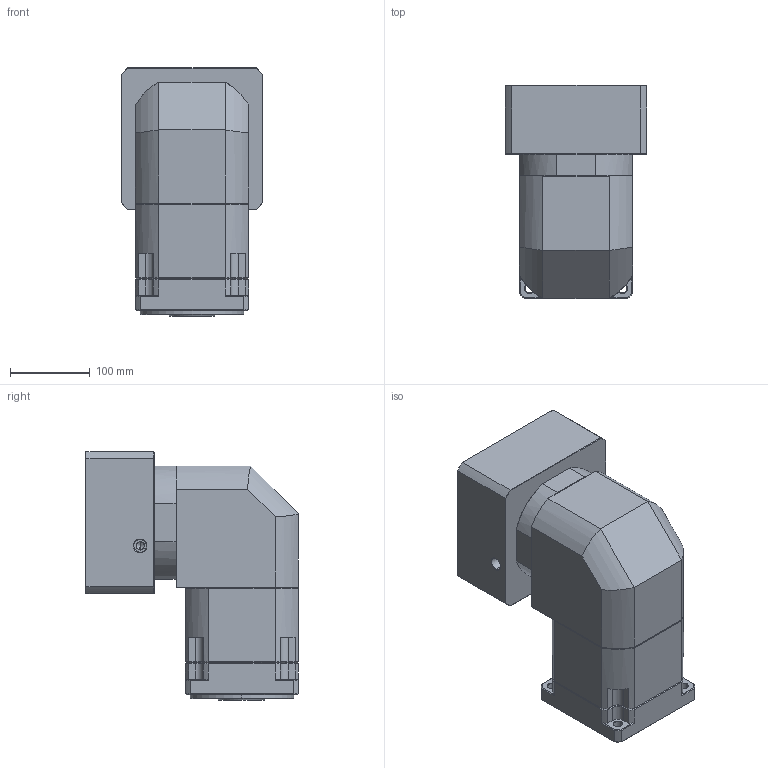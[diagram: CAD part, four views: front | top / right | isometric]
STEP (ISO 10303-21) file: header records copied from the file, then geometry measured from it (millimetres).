
FILE_DESCRIPTION (( 'STEP AP214' ), '1' );
FILE_NAME ('ZBR142A-K35-L2-P2-42-114.3-200-M12.step', '2023-09-02T07:17:19', ( '' ), ( '' ), 'SwSTEP 2.0', 'SolidWorks 2016', '' );
FILE_SCHEMA (( 'AUTOMOTIVE_DESIGN' ));
Length unit declared in the file: millimetre
Products named in the file (1): ZBR142A-K35-L2-P2-42-114.3-200-M12
Bounding box: 178 x 267 x 311.7 mm (x, y, z)
Volume: 7388628.6 mm3; surface area: 476327.5 mm2
Topology: 6 solids, 6 shells, 2239 faces, 5883 edges, 3750 vertices
Faces by surface type: plane 1113, bspline 403, cylinder 377, cone 326, torus 20
Entity records: 121882 total; most frequent: CARTESIAN_POINT 45193, ORIENTED_EDGE 11710, DIRECTION 9271, EDGE_CURVE 5855, LINE 3839, VECTOR 3839, VERTEX_POINT 3750, AXIS2_PLACEMENT_3D 2716
